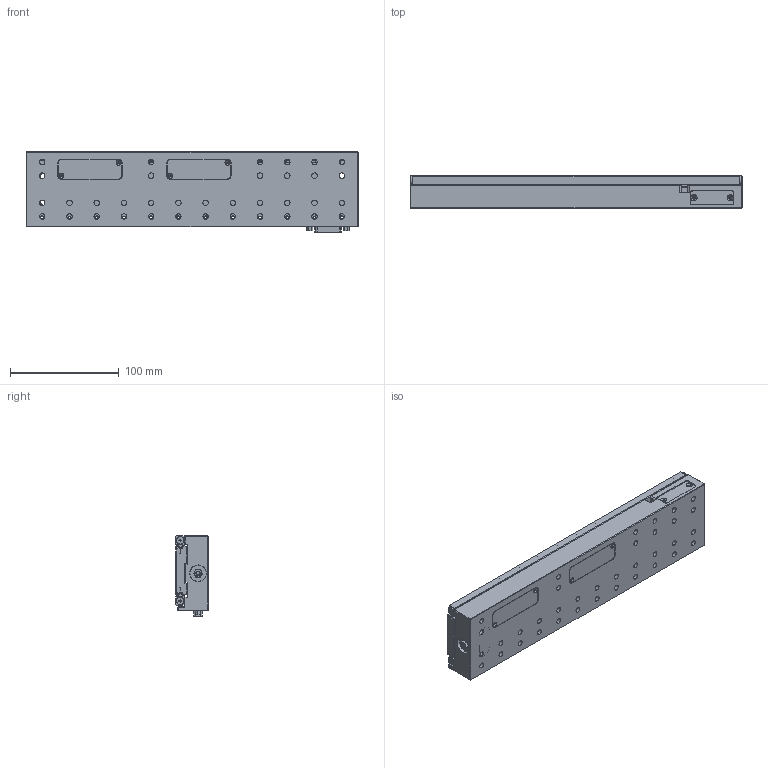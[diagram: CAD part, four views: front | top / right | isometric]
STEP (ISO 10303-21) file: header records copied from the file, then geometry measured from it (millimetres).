
FILE_DESCRIPTION (( 'STEP AP214' ), '1' );
FILE_NAME ('LS-200-yMCR (CATALOG MODEL).STEP', '2023-10-25T18:57:02', ( '' ), ( '' ), 'SwSTEP 2.0', 'SolidWorks 2023', '' );
FILE_SCHEMA (( 'AUTOMOTIVE_DESIGN' ));
Length unit declared in the file: inch
Products named in the file (1): LS-200-yMCR (CATALOG MODEL)
Bounding box: 304.81 x 29.98 x 73.65 mm (x, y, z)
Surface area: 137800 mm2 (no closed solid volume)
Topology: 0 solids, 28 shells, 886 faces, 2905 edges, 2049 vertices
Faces by surface type: cylinder 454, plane 343, cone 79, torus 10
Entity records: 34787 total; most frequent: CARTESIAN_POINT 8667, DIRECTION 5732, ORIENTED_EDGE 4839, EDGE_CURVE 2905, AXIS2_PLACEMENT_3D 2115, VERTEX_POINT 2049, LINE 1502, VECTOR 1502
